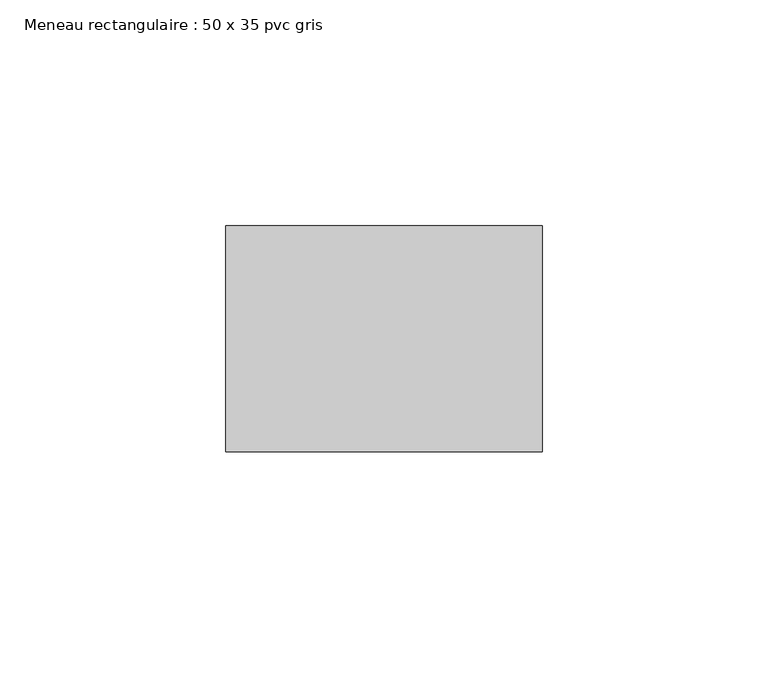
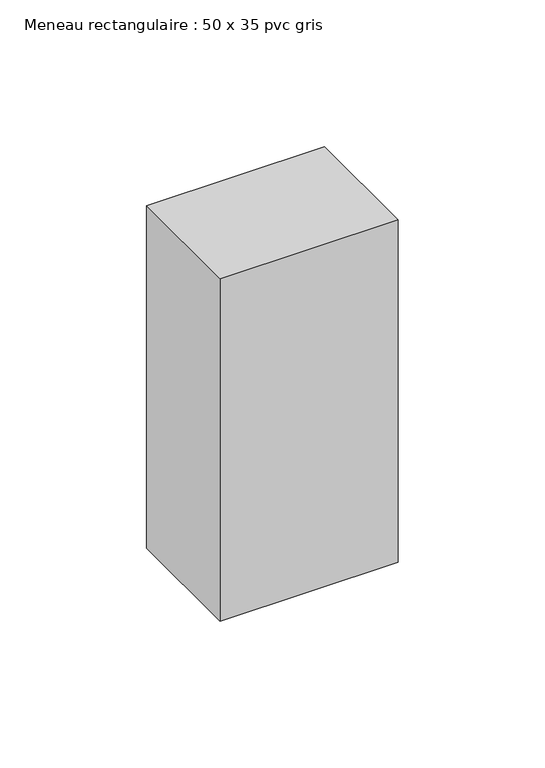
"""IFC4 building model written with IfcOpenShell, lengths in millimetres: member geometry, Meneau rectangulaire : 50 x 35 pvc gris."""

from ifc_helpers import new_model, si_unit, frame, origin, place, context, project, spatial, polyline, outline, extrude, source, transform, mapped, element, save


def meneau_rectangulaire_50_x_35_pvc_gris_93b66810(model_context):
    return source(origin(), model_context, "Body", "SweptSolid", [
        extrude(outline(polyline([(0.0, 0.0), (0.0, -50.0), (-70.0, -50.0), (-70.0, 0.0), (0.0, 0.0)])), frame((0.0, 0.0, -142.3081842), z_axis=(0.0, 0.0, 1.0), x_axis=(1.0, 0.0, 0.0)), (0.0, 0.0, 1.0), 142.3081842),
    ])


if __name__ == "__main__":
    model = new_model("IFC4")
    model_context = context("Model", 3, world=origin())
    ifc_project = project(units=[si_unit("LENGTHUNIT", "METRE", prefix="MILLI")], contexts=[model_context])
    site = spatial("IfcSite", under=ifc_project)
    building = spatial("IfcBuilding", under=site)
    placement = place(None, origin())
    meneau_rectangulaire_50_x_35_pvc_gris_shape = meneau_rectangulaire_50_x_35_pvc_gris_93b66810(model_context)
    element("IfcMember", 1, ObjectType="Meneau rectangulaire : 50 x 35 pvc gris", at=placement, inside=building, context=model_context, shape_type="MappedRepresentation", body=[
        mapped(meneau_rectangulaire_50_x_35_pvc_gris_shape, transform((0.0, 0.0, 0.0), x_axis=(1.0, 0.0, 0.0), y_axis=(0.0, 1.0, 0.0), z_axis=(0.0, 0.0, 1.0))),
    ])
    save(model, "model.ifc")
